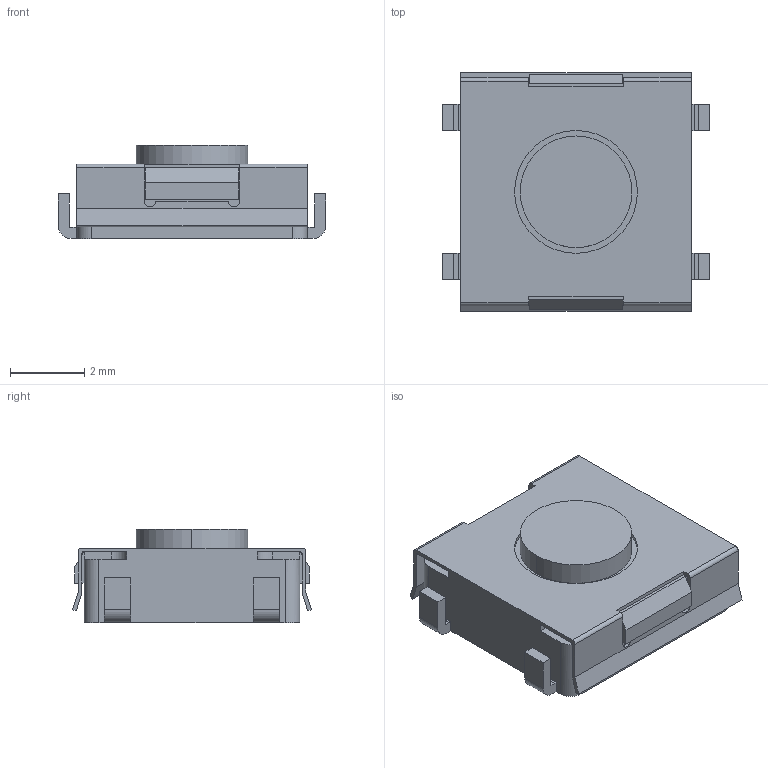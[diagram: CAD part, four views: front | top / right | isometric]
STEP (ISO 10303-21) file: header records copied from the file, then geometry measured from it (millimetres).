
FILE_DESCRIPTION (( 'STEP AP214' ), '1' );
FILE_NAME ('DTSL-61R-V.STEP', '2026-01-23T10:03:01', ( 'f1m' ), ( '' ), 'SwSTEP 2.0', 'SolidWorks 2017', '' );
FILE_SCHEMA (( 'AUTOMOTIVE_DESIGN' ));
Length unit declared in the file: millimetre
Products named in the file (1): DTSL-61R-V
Bounding box: 7.2 x 6.41 x 2.5 mm (x, y, z)
Volume: 75.2 mm3; surface area: 185.4 mm2
Topology: 1 solids, 1 shells, 120 faces, 349 edges, 230 vertices
Faces by surface type: plane 92, cylinder 28
Entity records: 5294 total; most frequent: CARTESIAN_POINT 829, ORIENTED_EDGE 698, DIRECTION 611, EDGE_CURVE 349, VECTOR 289, LINE 289, VERTEX_POINT 230, AXIS2_PLACEMENT_3D 161
